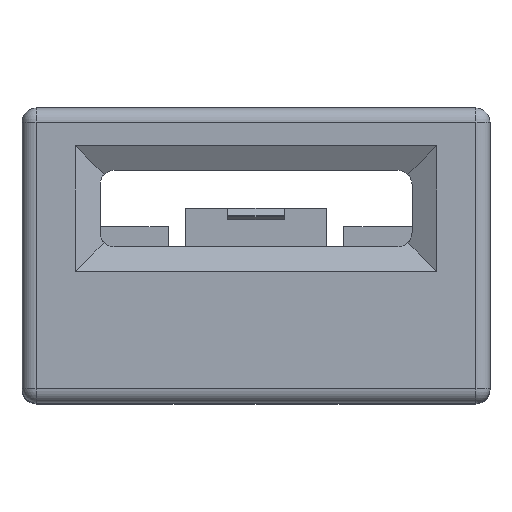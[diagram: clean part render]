
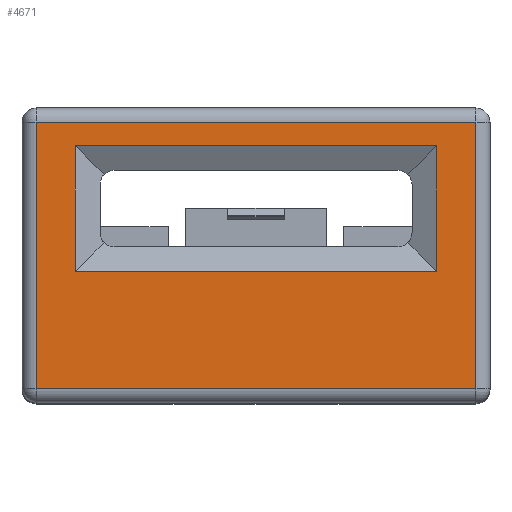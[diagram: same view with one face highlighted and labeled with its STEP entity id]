
A CAD part, top view. The second image highlights one B-rep face of the part: STEP entity #4671.
In plain terms, the highlighted planar face has unit normal (0, 0, 1).
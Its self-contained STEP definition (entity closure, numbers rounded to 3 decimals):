
#806 = DIRECTION ( 'NONE',  ( -1., 0., 0. ) ) ;
#851 = VECTOR ( 'NONE', #1760, 1000. ) ;
#1335 = VERTEX_POINT ( 'NONE', #6884 ) ;
#1760 = DIRECTION ( 'NONE',  ( 1., 0., 0. ) ) ;
#1790 = LINE ( 'NONE', #25527, #6049 ) ;
#2231 = ORIENTED_EDGE ( 'NONE', *, *, #23827, .T. ) ;
#2645 = VERTEX_POINT ( 'NONE', #20012 ) ;
#2750 = VERTEX_POINT ( 'NONE', #22641 ) ;
#3050 = DIRECTION ( 'NONE',  ( -1., 0., 0. ) ) ;
#3059 = DIRECTION ( 'NONE',  ( -1., 0., 0. ) ) ;
#3666 = LINE ( 'NONE', #26682, #19944 ) ;
#4671 = ADVANCED_FACE ( 'NONE', ( #23761, #13109 ), #25950, .F. ) ;
#4841 = DIRECTION ( 'NONE',  ( 0., 0., -1. ) ) ;
#4894 = CARTESIAN_POINT ( 'NONE',  ( 15.5, 1., 24. ) ) ;
#5104 = VECTOR ( 'NONE', #18103, 1000. ) ;
#5517 = CARTESIAN_POINT ( 'NONE',  ( -15.5, 19.8, 24. ) ) ;
#5586 = EDGE_CURVE ( 'NONE', #2645, #2750, #1790, .T. ) ;
#6046 = LINE ( 'NONE', #15529, #16684 ) ;
#6049 = VECTOR ( 'NONE', #15218, 1000. ) ;
#6468 = LINE ( 'NONE', #12493, #26128 ) ;
#6615 = CARTESIAN_POINT ( 'NONE',  ( -12.732, 9.268, 24. ) ) ;
#6884 = CARTESIAN_POINT ( 'NONE',  ( 12.732, 9.268, 24. ) ) ;
#7086 = LINE ( 'NONE', #8045, #23415 ) ;
#8045 = CARTESIAN_POINT ( 'NONE',  ( 15.5, 9., 24. ) ) ;
#8889 = DIRECTION ( 'NONE',  ( 0., -1., 0. ) ) ;
#9218 = EDGE_CURVE ( 'NONE', #26737, #25305, #6046, .T. ) ;
#9728 = CARTESIAN_POINT ( 'NONE',  ( -15.5, 9., 24. ) ) ;
#9996 = DIRECTION ( 'NONE',  ( 0., 1., 0. ) ) ;
#10823 = EDGE_CURVE ( 'NONE', #1335, #19164, #3666, .T. ) ;
#12195 = VECTOR ( 'NONE', #8889, 1000. ) ;
#12493 = CARTESIAN_POINT ( 'NONE',  ( -12.732, 9., 24. ) ) ;
#13109 = FACE_BOUND ( 'NONE', #27398, .T. ) ;
#13240 = CARTESIAN_POINT ( 'NONE',  ( 15.5, 19.8, 24. ) ) ;
#13404 = CARTESIAN_POINT ( 'NONE',  ( -16.5, 9., 24. ) ) ;
#14104 = CARTESIAN_POINT ( 'NONE',  ( -16.5, 1., 24. ) ) ;
#14105 = ORIENTED_EDGE ( 'NONE', *, *, #18926, .T. ) ;
#14543 = DIRECTION ( 'NONE',  ( 0., 1., 0. ) ) ;
#14740 = EDGE_LOOP ( 'NONE', ( #14105, #2231, #20641, #26260 ) ) ;
#14853 = ORIENTED_EDGE ( 'NONE', *, *, #16166, .T. ) ;
#15218 = DIRECTION ( 'NONE',  ( 1., 0., 0. ) ) ;
#15529 = CARTESIAN_POINT ( 'NONE',  ( -16.5, 19.8, 24. ) ) ;
#15878 = AXIS2_PLACEMENT_3D ( 'NONE', #13404, #4841, #806 ) ;
#16063 = VERTEX_POINT ( 'NONE', #4894 ) ;
#16166 = EDGE_CURVE ( 'NONE', #2750, #1335, #16852, .T. ) ;
#16684 = VECTOR ( 'NONE', #3050, 1000. ) ;
#16852 = LINE ( 'NONE', #21643, #12195 ) ;
#17968 = VERTEX_POINT ( 'NONE', #19879 ) ;
#18103 = DIRECTION ( 'NONE',  ( 0., -1., 0. ) ) ;
#18447 = LINE ( 'NONE', #14104, #851 ) ;
#18520 = EDGE_CURVE ( 'NONE', #16063, #26737, #7086, .T. ) ;
#18926 = EDGE_CURVE ( 'NONE', #25305, #17968, #22079, .T. ) ;
#19164 = VERTEX_POINT ( 'NONE', #6615 ) ;
#19879 = CARTESIAN_POINT ( 'NONE',  ( -15.5, 1., 24. ) ) ;
#19944 = VECTOR ( 'NONE', #3059, 1000. ) ;
#20012 = CARTESIAN_POINT ( 'NONE',  ( -12.732, 18.132, 24. ) ) ;
#20087 = ORIENTED_EDGE ( 'NONE', *, *, #10823, .T. ) ;
#20641 = ORIENTED_EDGE ( 'NONE', *, *, #18520, .T. ) ;
#21643 = CARTESIAN_POINT ( 'NONE',  ( 12.732, 9., 24. ) ) ;
#22079 = LINE ( 'NONE', #9728, #5104 ) ;
#22641 = CARTESIAN_POINT ( 'NONE',  ( 12.732, 18.132, 24. ) ) ;
#23277 = EDGE_CURVE ( 'NONE', #19164, #2645, #6468, .T. ) ;
#23415 = VECTOR ( 'NONE', #9996, 1000. ) ;
#23761 = FACE_OUTER_BOUND ( 'NONE', #14740, .T. ) ;
#23827 = EDGE_CURVE ( 'NONE', #17968, #16063, #18447, .T. ) ;
#23994 = ORIENTED_EDGE ( 'NONE', *, *, #23277, .T. ) ;
#24042 = ORIENTED_EDGE ( 'NONE', *, *, #5586, .T. ) ;
#25305 = VERTEX_POINT ( 'NONE', #5517 ) ;
#25527 = CARTESIAN_POINT ( 'NONE',  ( -16.5, 18.132, 24. ) ) ;
#25950 = PLANE ( 'NONE',  #15878 ) ;
#26128 = VECTOR ( 'NONE', #14543, 1000. ) ;
#26260 = ORIENTED_EDGE ( 'NONE', *, *, #9218, .T. ) ;
#26682 = CARTESIAN_POINT ( 'NONE',  ( -16.5, 9.268, 24. ) ) ;
#26737 = VERTEX_POINT ( 'NONE', #13240 ) ;
#27398 = EDGE_LOOP ( 'NONE', ( #20087, #23994, #24042, #14853 ) ) ;
